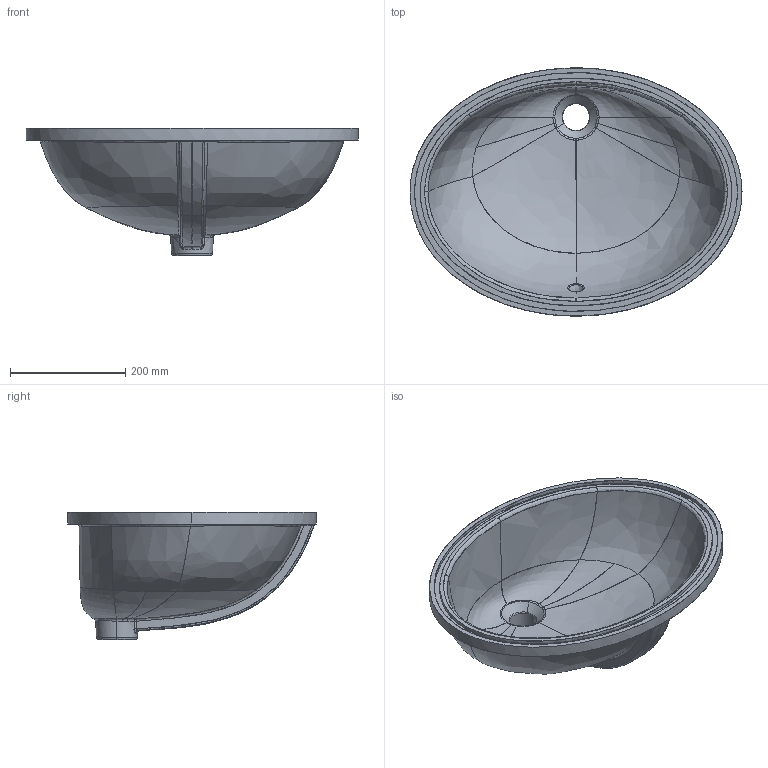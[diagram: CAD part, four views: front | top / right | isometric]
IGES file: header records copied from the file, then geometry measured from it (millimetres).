
Start section: START RECORD GO HERE.
Global section: file name: 6002_3D.igs; native system: DASSAULT SYSTEMES CATIA V5 R19 - www.3ds.com; preprocessor: CATIA Version 5 Release 19 SP 5 ; author: gioge; organization: LAPTOP-G94B6G74; date: 20201024.121434; units: millimetre
Bounding box: 575 x 429.97 x 220 mm (x, y, z)
Surface area: 697270.1 mm2 (no closed solid volume)
Topology: 0 solids, 0 shells, 132 faces, 600 edges, 597 vertices
Faces by surface type: bspline 104, revolution 16, extrusion 6, plane 6
